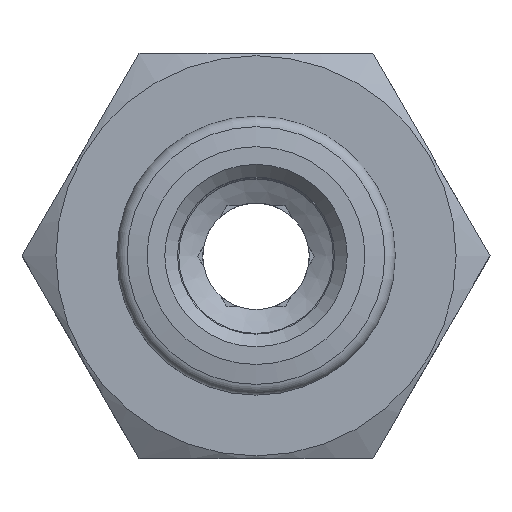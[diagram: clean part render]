
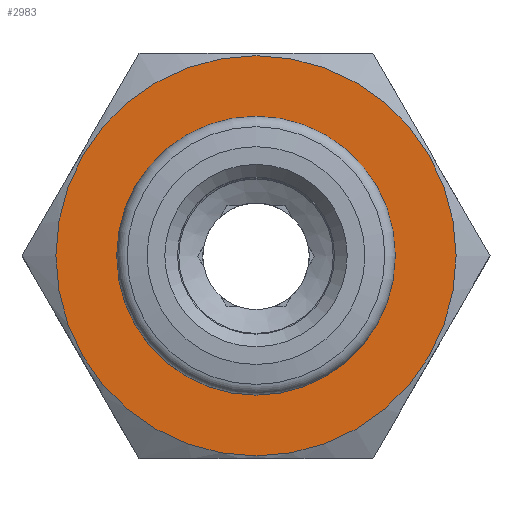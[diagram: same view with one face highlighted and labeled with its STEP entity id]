
A CAD part, top view. The second image highlights one B-rep face of the part: STEP entity #2983.
In plain terms, the highlighted planar face has unit normal (0, 0, 1) as drawn and (0, 1, 0) by its records, which use the part's own axes.
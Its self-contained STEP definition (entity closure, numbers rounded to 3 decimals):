
#787=PLANE('',#2866);
#962=ORIENTED_EDGE('',*,*,#1320,.F.);
#963=ORIENTED_EDGE('',*,*,#1324,.F.);
#1153=CIRCLE('',#2862,7.9);
#1154=CIRCLE('',#2867,5.5);
#1226=VERTEX_POINT('',#2645);
#1229=VERTEX_POINT('',#2653);
#1320=EDGE_CURVE('',#1226,#1226,#1153,.T.);
#1324=EDGE_CURVE('',#1229,#1229,#1154,.T.);
#1412=EDGE_LOOP('',(#962));
#1413=EDGE_LOOP('',(#963));
#1516=FACE_BOUND('',#1412,.T.);
#1517=FACE_BOUND('',#1413,.T.);
#2303=DIRECTION('',(0.,-1.,0.));
#2304=DIRECTION('',(0.,0.,7.9));
#2311=DIRECTION('',(0.,1.,0.));
#2312=DIRECTION('',(1.,0.,0.));
#2313=DIRECTION('',(0.,1.,0.));
#2314=DIRECTION('',(0.,0.,-5.5));
#2645=CARTESIAN_POINT('',(25.168,29.395,7.9));
#2646=CARTESIAN_POINT('',(25.168,29.395,0.));
#2652=CARTESIAN_POINT('',(33.068,29.395,0.));
#2653=CARTESIAN_POINT('',(25.168,29.395,-5.5));
#2654=CARTESIAN_POINT('',(25.168,29.395,0.));
#2862=AXIS2_PLACEMENT_3D('',#2646,#2303,#2304);
#2866=AXIS2_PLACEMENT_3D('',#2652,#2311,#2312);
#2867=AXIS2_PLACEMENT_3D('',#2654,#2313,#2314);
#2983=ADVANCED_FACE('',(#1516,#1517),#787,.T.);
